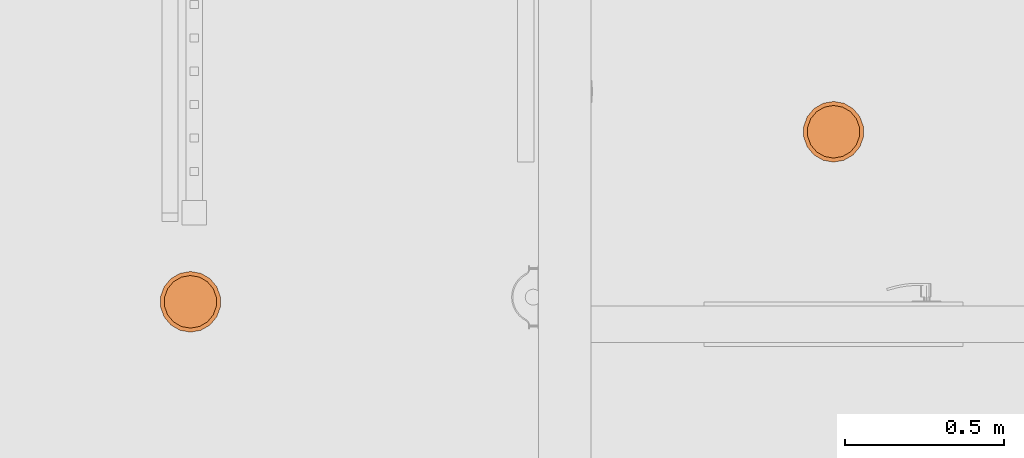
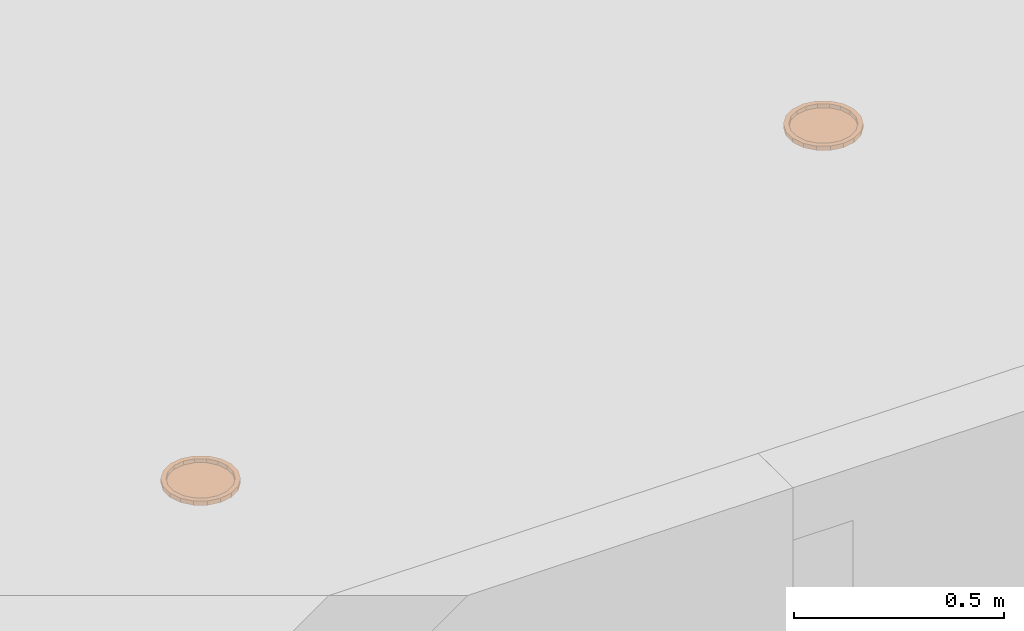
# One storey, part 72 of 103: 2 proxies.
"""IFC2X3 building model written with IfcOpenShell, lengths in inches."""

from ifc_helpers import new_model, entity, si_unit, converted_unit, derived_unit, money_unit, direction, frame, origin_with_axes, place, context, subcontext, project, spatial, open_shell, faceted_brep, surface_model, source, transform, mapped, type_object, element, save


model = new_model("IFC2X3")

# Units and contexts
model_context = context("Model", 3, precision=0.00039370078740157, world=origin_with_axes(), true_north=direction((0.0, 1.0)))
plan_context = context("Plan", 3, precision=0.00039370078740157, world=origin_with_axes(), true_north=direction((0.0, 1.0)))
body_context = subcontext(model_context, "Body", "Model", "MODEL_VIEW")
ifc_project = project(units=[converted_unit("LENGTHUNIT", "INCH", entity("IfcPositiveLengthMeasure", 0.0254), si_unit("LENGTHUNIT", "METRE"), dimensions=[1, 0, 0, 0, 0, 0, 0]), converted_unit("AREAUNIT", "SQUARE_FOOT", entity("IfcPositiveLengthMeasure", 0.09290304), si_unit("AREAUNIT", "SQUARE_METRE"), dimensions=[2, 0, 0, 0, 0, 0, 0]), si_unit("PLANEANGLEUNIT", "RADIAN"), si_unit("SOLIDANGLEUNIT", "STERADIAN"), money_unit("USD"), converted_unit("TIMEUNIT", "Year", entity("IfcTimeMeasure", 31557600.0), si_unit("TIMEUNIT", "SECOND"), dimensions=[0, 0, 1, 0, 0, 0, 0]), si_unit("MASSUNIT", "GRAM", prefix="KILO"), si_unit("THERMODYNAMICTEMPERATUREUNIT", "DEGREE_CELSIUS"), si_unit("LUMINOUSINTENSITYUNIT", "LUMEN"), si_unit("ENERGYUNIT", "JOULE", prefix="MEGA"), derived_unit("SPECIFICHEATCAPACITYUNIT", [(si_unit("ENERGYUNIT", "JOULE"), 1), (si_unit("MASSUNIT", "GRAM", prefix="KILO"), -1), (si_unit("THERMODYNAMICTEMPERATUREUNIT", "KELVIN"), -1)])], contexts=[model_context, plan_context])

# Site, building, storey
site_placement = place(None, origin_with_axes())
site = spatial("IfcSite", under=ifc_project, at=site_placement, Name="Site", CompositionType="ELEMENT")
building_placement = place(site_placement, origin_with_axes())
building = spatial("IfcBuilding", under=site, at=building_placement, Name="Building", CompositionType="ELEMENT")
storey_placement = place(building_placement, frame((0.0, 0.0, 127.9999999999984), z_axis=(0.0, 0.0, 1.0), x_axis=(1.0, 0.0, 0.0)))
storey = spatial("IfcBuildingStorey", under=building, at=storey_placement, Name="Second Floor", CompositionType="ELEMENT", Elevation=128.0)

# Proxies
building_element_proxy_type = type_object("IfcBuildingElementProxyType", Name="Recessed Spot", PredefinedType="NOTDEFINED")
shared_shape = source(origin_with_axes(), body_context, "Body", "SurfaceModel", [
    faceted_brep([(3.749999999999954, 0.0, -0.4999999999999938), (3.523847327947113, 1.282575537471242, -0.4999999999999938), (3.523847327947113, 1.282575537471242, 0.0), (3.749999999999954, 0.0, 0.0), (3.523847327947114, -1.282575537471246, -0.4999999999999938), (2.872666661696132, -2.410453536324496, -0.4999999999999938), (1.874999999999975, -3.247595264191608, -0.4999999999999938), (0.6511806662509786, -3.693029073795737, -0.4999999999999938), (-0.6511806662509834, -3.693029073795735, -0.4999999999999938), (-1.87499999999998, -3.247595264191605, -0.4999999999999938), (-2.872666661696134, -2.410453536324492, -0.4999999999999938), (-3.523847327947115, -1.282575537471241, -0.4999999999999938), (-3.749999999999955, 0.0, -0.4999999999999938), (-3.523847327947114, 1.282575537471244, -0.4999999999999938), (-2.872666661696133, 2.410453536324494, -0.4999999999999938), (-1.874999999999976, 3.247595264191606, -0.4999999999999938), (-0.6511806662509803, 3.693029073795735, -0.4999999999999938), (0.6511806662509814, 3.693029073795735, -0.4999999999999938), (1.874999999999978, 3.247595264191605, -0.4999999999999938), (2.872666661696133, 2.410453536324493, -0.4999999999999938), (3.24999999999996, 0.0, -0.4999999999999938), (3.054001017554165, 1.11156546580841, -0.4999999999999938), (2.489644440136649, 2.089059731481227, -0.4999999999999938), (1.62499999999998, 2.814582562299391, -0.4999999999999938), (0.5643565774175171, 3.200625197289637, -0.4999999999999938), (-0.5643565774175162, 3.200625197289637, -0.4999999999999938), (-1.62499999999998, 2.814582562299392, -0.4999999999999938), (-2.489644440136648, 2.089059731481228, -0.4999999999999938), (-3.054001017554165, 1.111565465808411, -0.4999999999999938), (-3.24999999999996, 0.0, -0.4999999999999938), (-3.054001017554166, -1.111565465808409, -0.4999999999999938), (-2.48964444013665, -2.089059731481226, -0.4999999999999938), (-1.624999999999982, -2.814582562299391, -0.4999999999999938), (-0.5643565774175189, -3.200625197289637, -0.4999999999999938), (0.5643565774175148, -3.200625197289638, -0.4999999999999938), (1.624999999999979, -2.814582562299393, -0.4999999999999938), (2.489644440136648, -2.08905973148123, -0.4999999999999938), (3.054001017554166, -1.111565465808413, -0.4999999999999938), (2.872666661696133, 2.410453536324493, 0.0), (1.874999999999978, 3.247595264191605, 0.0), (0.6511806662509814, 3.693029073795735, 0.0), (-0.6511806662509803, 3.693029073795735, 0.0), (-1.874999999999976, 3.247595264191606, 0.0), (-2.872666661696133, 2.410453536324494, 0.0), (-3.523847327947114, 1.282575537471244, 0.0), (-3.749999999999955, 0.0, 0.0), (-3.523847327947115, -1.282575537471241, 0.0), (-2.872666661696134, -2.410453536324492, 0.0), (-1.87499999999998, -3.247595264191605, 0.0), (-0.6511806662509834, -3.693029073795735, 0.0), (0.6511806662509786, -3.693029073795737, 0.0), (1.874999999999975, -3.247595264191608, 0.0), (2.872666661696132, -2.410453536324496, 0.0), (3.523847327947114, -1.282575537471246, 0.0), (3.24999999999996, 0.0, 0.0), (3.054001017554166, -1.111565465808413, 0.0), (2.489644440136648, -2.08905973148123, 0.0), (1.624999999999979, -2.814582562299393, 0.0), (0.5643565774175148, -3.200625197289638, 0.0), (-0.5643565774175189, -3.200625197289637, 0.0), (-1.624999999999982, -2.814582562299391, 0.0), (-2.48964444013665, -2.089059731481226, 0.0), (-3.054001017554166, -1.111565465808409, 0.0), (-3.24999999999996, 0.0, 0.0), (-3.054001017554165, 1.111565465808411, 0.0), (-2.489644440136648, 2.089059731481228, 0.0), (-1.62499999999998, 2.814582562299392, 0.0), (-0.5643565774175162, 3.200625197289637, 0.0), (0.5643565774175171, 3.200625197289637, 0.0), (1.62499999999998, 2.814582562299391, 0.0), (2.489644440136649, 2.089059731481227, 0.0), (3.054001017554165, 1.11156546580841, 0.0)], [[[0, 1, 2, 3]], [[0, 4, 5, 6, 7, 8, 9, 10, 11, 12, 13, 14, 15, 16, 17, 18, 19, 1], [20, 21, 22, 23, 24, 25, 26, 27, 28, 29, 30, 31, 32, 33, 34, 35, 36, 37]], [[1, 19, 38, 2]], [[3, 2, 38, 39, 40, 41, 42, 43, 44, 45, 46, 47, 48, 49, 50, 51, 52, 53], [54, 55, 56, 57, 58, 59, 60, 61, 62, 63, 64, 65, 66, 67, 68, 69, 70, 71]], [[4, 0, 3, 53]], [[5, 4, 53, 52]], [[6, 5, 52, 51]], [[7, 6, 51, 50]], [[8, 7, 50, 49]], [[9, 8, 49, 48]], [[10, 9, 48, 47]], [[11, 10, 47, 46]], [[12, 11, 46, 45]], [[13, 12, 45, 44]], [[14, 13, 44, 43]], [[15, 14, 43, 42]], [[16, 15, 42, 41]], [[17, 16, 41, 40]], [[18, 17, 40, 39]], [[19, 18, 39, 38]], [[21, 20, 54, 71]], [[22, 21, 71, 70]], [[23, 22, 70, 69]], [[24, 23, 69, 68]], [[25, 24, 68, 67]], [[26, 25, 67, 66]], [[27, 26, 66, 65]], [[28, 27, 65, 64]], [[29, 28, 64, 63]], [[30, 29, 63, 62]], [[31, 30, 62, 61]], [[32, 31, 61, 60]], [[33, 32, 60, 59]], [[34, 33, 59, 58]], [[35, 34, 58, 57]], [[36, 35, 57, 56]], [[37, 36, 56, 55]], [[20, 37, 55, 54]]]),
    surface_model("IfcShellBasedSurfaceModel", [(3.24999999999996, 0.0, -0.4460629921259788), (3.054001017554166, -1.111565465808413, -0.4460629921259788), (2.489644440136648, -2.08905973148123, -0.4460629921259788), (1.624999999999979, -2.814582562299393, -0.4460629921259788), (0.5643565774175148, -3.200625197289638, -0.4460629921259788), (-0.5643565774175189, -3.200625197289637, -0.4460629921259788), (-1.624999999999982, -2.814582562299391, -0.4460629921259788), (-2.48964444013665, -2.089059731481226, -0.4460629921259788), (-3.054001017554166, -1.111565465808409, -0.4460629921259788), (-3.24999999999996, 0.0, -0.4460629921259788), (-3.054001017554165, 1.111565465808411, -0.4460629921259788), (-2.489644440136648, 2.089059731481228, -0.4460629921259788), (-1.62499999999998, 2.814582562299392, -0.4460629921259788), (-0.5643565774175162, 3.200625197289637, -0.4460629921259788), (0.5643565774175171, 3.200625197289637, -0.4460629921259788), (1.62499999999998, 2.814582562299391, -0.4460629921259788), (2.489644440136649, 2.089059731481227, -0.4460629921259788), (3.054001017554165, 1.11156546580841, -0.4460629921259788)], [open_shell([[[0, 1, 2, 3, 4, 5, 6, 7, 8, 9, 10, 11, 12, 13, 14, 15, 16, 17]]])]),
])
for number, where, z_axis, x_axis, name in (
    (1, (201.499999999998, 36.50000014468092, 119.9999999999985), (0.0, 0.0, 1.0), (0.0, 1.0, 0.0), "L-03"),
    (2, (280.9991199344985, 57.52021062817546, 119.9999999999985), (0.0, 0.0, 1.0), (0.0, 1.0, 0.0), "L-03"),
):
    element("IfcBuildingElementProxy", number, at=place(storey_placement, frame(where, z_axis=z_axis, x_axis=x_axis)), inside=storey, type_object=building_element_proxy_type, Name=name, context=body_context, shape_type="MappedRepresentation", body=[
        mapped(shared_shape, transform((0.0, 0.0, 0.0))),
    ])

save(model, "model.ifc")
